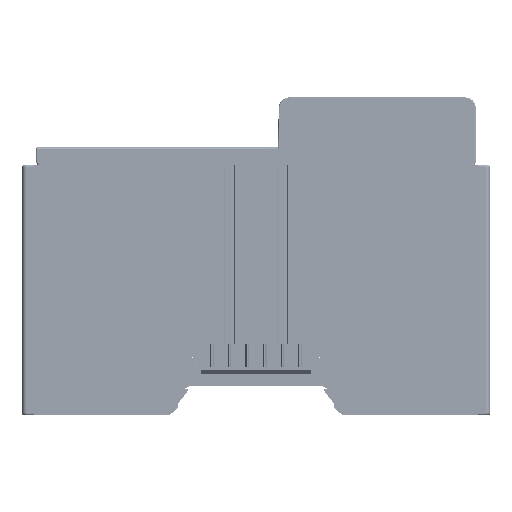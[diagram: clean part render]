
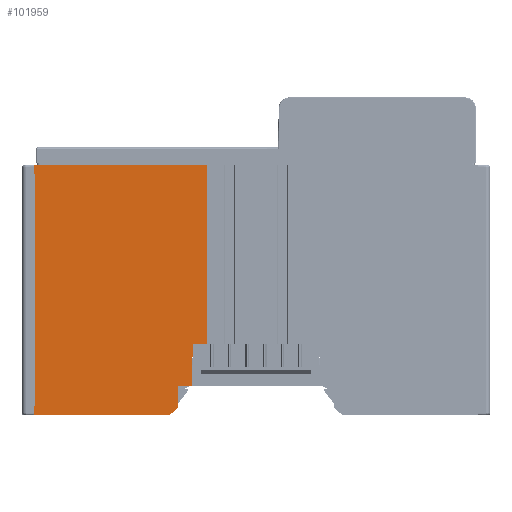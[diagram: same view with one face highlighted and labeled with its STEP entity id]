
A CAD part, left-side view. The second image highlights one B-rep face of the part: STEP entity #101959.
In plain terms, the highlighted planar face has unit normal (-1, 0, 0).
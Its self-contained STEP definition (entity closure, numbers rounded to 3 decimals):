
#1028=CARTESIAN_POINT('',(-11.25,19.813,-56.7));
#1029=DIRECTION('',(1.,0.,0.));
#1030=DIRECTION('',(0.,-0.682,-0.731));
#1031=AXIS2_PLACEMENT_3D('',#1028,#1029,#1030);
#1033=DIRECTION('',(0.,-0.114,0.994));
#1034=VECTOR('',#1033,3.523);
#1035=CARTESIAN_POINT('',(-11.25,52.,-57.));
#1036=LINE('',#1035,#1034);
#1037=DIRECTION('',(0.,0.,1.));
#1038=VECTOR('',#1037,50.);
#1039=CARTESIAN_POINT('',(-11.25,51.6,-53.5));
#1040=LINE('',#1039,#1038);
#1041=DIRECTION('',(0.,0.114,0.994));
#1042=VECTOR('',#1041,3.523);
#1043=CARTESIAN_POINT('',(-11.25,51.6,-3.5));
#1044=LINE('',#1043,#1042);
#1045=DIRECTION('',(0.,-1.,0.));
#1046=VECTOR('',#1045,40.8);
#1047=CARTESIAN_POINT('',(-11.25,52.,0.));
#1048=LINE('',#1047,#1046);
#1049=DIRECTION('',(0.,0.,-1.));
#1050=VECTOR('',#1049,40.7);
#1051=CARTESIAN_POINT('',(-11.25,11.2,0.));
#1052=LINE('',#1051,#1050);
#1053=DIRECTION('',(0.,0.026,-1.));
#1054=VECTOR('',#1053,9.603);
#1055=CARTESIAN_POINT('',(-11.25,14.36,-40.7));
#1056=LINE('',#1055,#1054);
#1057=DIRECTION('',(0.,0.017,-1.));
#1058=VECTOR('',#1057,4.82);
#1059=CARTESIAN_POINT('',(-11.25,17.727,-50.3));
#1060=LINE('',#1059,#1058);
#1061=CARTESIAN_POINT('',(-11.25,18.112,-55.114));
#1062=DIRECTION('',(1.,0.,0.));
#1063=DIRECTION('',(0.,-1.,-0.017));
#1064=AXIS2_PLACEMENT_3D('',#1061,#1062,#1063);
#1066=DIRECTION('',(0.,0.731,-0.682));
#1067=VECTOR('',#1066,2.326);
#1068=CARTESIAN_POINT('',(-11.25,17.907,-55.333));
#1069=LINE('',#1068,#1067);
#1091=DIRECTION('',(0.,-1.,0.));
#1092=VECTOR('',#1091,32.187);
#1093=CARTESIAN_POINT('',(-11.25,52.,-57.));
#1094=LINE('',#1093,#1092);
#1482=DIRECTION('',(0.,-1.,0.));
#1483=VECTOR('',#1482,3.16);
#1484=CARTESIAN_POINT('',(-11.25,14.36,-40.7));
#1485=LINE('',#1484,#1483);
#65521=DIRECTION('',(0.,-1.,0.));
#65522=VECTOR('',#65521,3.116);
#65523=CARTESIAN_POINT('',(-11.25,17.727,-50.3));
#65524=LINE('',#65523,#65522);
#80351=CARTESIAN_POINT('',(-11.25,11.2,0.));
#80352=VERTEX_POINT('',#80351);
#80353=CARTESIAN_POINT('',(-11.25,52.,0.));
#80354=VERTEX_POINT('',#80353);
#80647=CARTESIAN_POINT('',(-11.25,19.608,-56.919));
#80648=CARTESIAN_POINT('',(-11.25,19.813,-57.));
#80649=VERTEX_POINT('',#80647);
#80650=VERTEX_POINT('',#80648);
#80651=CARTESIAN_POINT('',(-11.25,52.,-57.));
#80652=VERTEX_POINT('',#80651);
#80653=CARTESIAN_POINT('',(-11.25,51.6,-53.5));
#80654=VERTEX_POINT('',#80653);
#80655=CARTESIAN_POINT('',(-11.25,51.6,-3.5));
#80656=VERTEX_POINT('',#80655);
#80657=CARTESIAN_POINT('',(-11.25,11.2,-40.7));
#80658=VERTEX_POINT('',#80657);
#80659=CARTESIAN_POINT('',(-11.25,14.36,-40.7));
#80660=VERTEX_POINT('',#80659);
#80661=CARTESIAN_POINT('',(-11.25,14.612,-50.3));
#80662=VERTEX_POINT('',#80661);
#80663=CARTESIAN_POINT('',(-11.25,17.727,-50.3));
#80664=VERTEX_POINT('',#80663);
#80665=CARTESIAN_POINT('',(-11.25,17.812,-55.119));
#80666=VERTEX_POINT('',#80665);
#80667=CARTESIAN_POINT('',(-11.25,17.907,-55.333));
#80668=VERTEX_POINT('',#80667);
#101928=CARTESIAN_POINT('',(-11.25,50.,0.));
#101929=DIRECTION('',(-1.,0.,0.));
#101930=DIRECTION('',(0.,-1.,0.));
#101931=AXIS2_PLACEMENT_3D('',#101928,#101929,#101930);
#101932=PLANE('',#101931);
#101933=ORIENTED_EDGE('',*,*,#101918,.T.);
#101935=ORIENTED_EDGE('',*,*,#101934,.F.);
#101937=ORIENTED_EDGE('',*,*,#101936,.T.);
#101939=ORIENTED_EDGE('',*,*,#101938,.T.);
#101941=ORIENTED_EDGE('',*,*,#101940,.T.);
#101942=ORIENTED_EDGE('',*,*,#101111,.T.);
#101944=ORIENTED_EDGE('',*,*,#101943,.T.);
#101946=ORIENTED_EDGE('',*,*,#101945,.F.);
#101948=ORIENTED_EDGE('',*,*,#101947,.T.);
#101950=ORIENTED_EDGE('',*,*,#101949,.F.);
#101952=ORIENTED_EDGE('',*,*,#101951,.T.);
#101954=ORIENTED_EDGE('',*,*,#101953,.T.);
#101956=ORIENTED_EDGE('',*,*,#101955,.T.);
#101957=EDGE_LOOP('',(#101933,#101935,#101937,#101939,#101941,#101942,#101944,
#101946,#101948,#101950,#101952,#101954,#101956));
#101958=FACE_OUTER_BOUND('',#101957,.F.);
#101959=ADVANCED_FACE('',(#101958),#101932,.T.);
#1032=CIRCLE('',#1031,0.3);
#1065=CIRCLE('',#1064,0.3);
#101111=EDGE_CURVE('',#80354,#80352,#1048,.T.);
#101918=EDGE_CURVE('',#80649,#80650,#1032,.T.);
#101934=EDGE_CURVE('',#80652,#80650,#1094,.T.);
#101936=EDGE_CURVE('',#80652,#80654,#1036,.T.);
#101938=EDGE_CURVE('',#80654,#80656,#1040,.T.);
#101940=EDGE_CURVE('',#80656,#80354,#1044,.T.);
#101943=EDGE_CURVE('',#80352,#80658,#1052,.T.);
#101945=EDGE_CURVE('',#80660,#80658,#1485,.T.);
#101947=EDGE_CURVE('',#80660,#80662,#1056,.T.);
#101949=EDGE_CURVE('',#80664,#80662,#65524,.T.);
#101951=EDGE_CURVE('',#80664,#80666,#1060,.T.);
#101953=EDGE_CURVE('',#80666,#80668,#1065,.T.);
#101955=EDGE_CURVE('',#80668,#80649,#1069,.T.);
